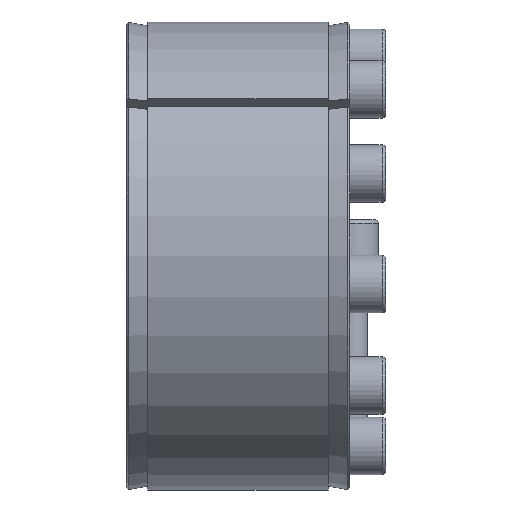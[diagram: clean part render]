
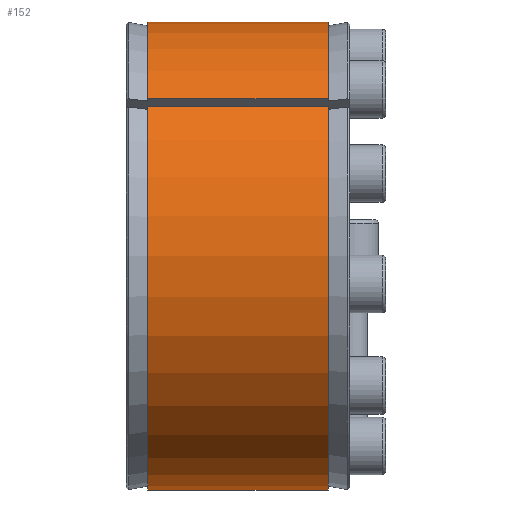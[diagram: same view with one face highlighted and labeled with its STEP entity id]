
A CAD part, left-side view. The second image highlights one B-rep face of the part: STEP entity #152.
In plain terms, the highlighted cylindrical face has radius 65 mm (diameter 130 mm), a partial arc.
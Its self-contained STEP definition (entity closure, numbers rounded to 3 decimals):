
#152 = ADVANCED_FACE( '', ( #356 ), #357, .T. );
#356 = FACE_OUTER_BOUND( '', #679, .T. );
#357 = CYLINDRICAL_SURFACE( '', #680, 65. );
#679 = EDGE_LOOP( '', ( #1114, #1115, #1116, #1117 ) );
#680 = AXIS2_PLACEMENT_3D( '', #1118, #1119, #1120 );
#1114 = ORIENTED_EDGE( '', *, *, #1693, .T. );
#1115 = ORIENTED_EDGE( '', *, *, #1778, .T. );
#1116 = ORIENTED_EDGE( '', *, *, #1779, .F. );
#1117 = ORIENTED_EDGE( '', *, *, #1780, .T. );
#1118 = CARTESIAN_POINT( '', ( 0., -60., 0. ) );
#1119 = DIRECTION( '', ( 0., 1., 0. ) );
#1120 = DIRECTION( '', ( 0., 0., -1. ) );
#1693 = EDGE_CURVE( '', #2024, #2022, #2025, .T. );
#1778 = EDGE_CURVE( '', #2022, #2172, #2173, .T. );
#1779 = EDGE_CURVE( '', #2174, #2172, #2175, .T. );
#1780 = EDGE_CURVE( '', #2174, #2024, #2176, .F. );
#2022 = VERTEX_POINT( '', #2566 );
#2024 = VERTEX_POINT( '', #2569 );
#2025 = CIRCLE( '', #2570, 65. );
#2172 = VERTEX_POINT( '', #2881 );
#2173 = LINE( '', #2882, #2883 );
#2174 = VERTEX_POINT( '', #2884 );
#2175 = CIRCLE( '', #2885, 65. );
#2176 = LINE( '', #2886, #2887 );
#2566 = CARTESIAN_POINT( '', ( -48.128, 56., 43.688 ) );
#2569 = CARTESIAN_POINT( '', ( -50.093, 56., 41.421 ) );
#2570 = AXIS2_PLACEMENT_3D( '', #3241, #3242, #3243 );
#2881 = CARTESIAN_POINT( '', ( -48.128, 6., 43.688 ) );
#2882 = CARTESIAN_POINT( '', ( -48.128, -60., 43.688 ) );
#2883 = VECTOR( '', #3385, 1000. );
#2884 = CARTESIAN_POINT( '', ( -50.093, 6., 41.421 ) );
#2885 = AXIS2_PLACEMENT_3D( '', #3386, #3387, #3388 );
#2886 = CARTESIAN_POINT( '', ( -50.093, -60., 41.421 ) );
#2887 = VECTOR( '', #3389, 1000. );
#3241 = CARTESIAN_POINT( '', ( 0., 56., 0. ) );
#3242 = DIRECTION( '', ( 0., -1., 0. ) );
#3243 = DIRECTION( '', ( 0., 0., -1. ) );
#3385 = DIRECTION( '', ( 0., -1., 0. ) );
#3386 = CARTESIAN_POINT( '', ( 0., 6., 0. ) );
#3387 = DIRECTION( '', ( 0., -1., 0. ) );
#3388 = DIRECTION( '', ( 0., 0., -1. ) );
#3389 = DIRECTION( '', ( 0., -1., 0. ) );
